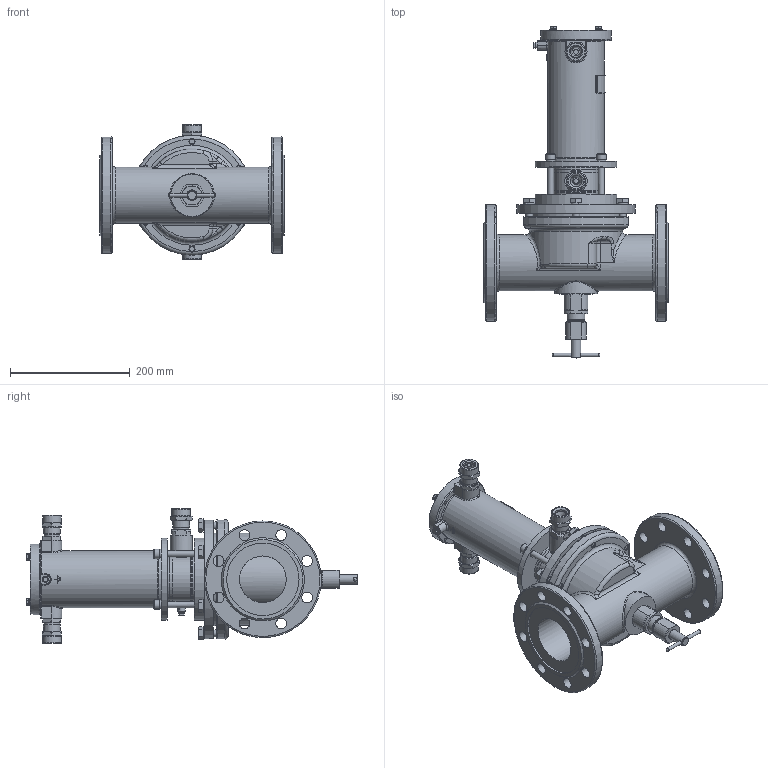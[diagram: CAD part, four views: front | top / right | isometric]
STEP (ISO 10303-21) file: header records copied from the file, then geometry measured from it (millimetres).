
FILE_DESCRIPTION(('STEP AP203'), '1');
FILE_NAME('ÑÅÍÑ-ÏÐ DN80PN25-ÄÏ1.stp', '2018-10-09T08:06:13', ('Îðëîâ Å.Â.'), ('ÎÎÎ ÍÏÏ Ñåíñîð'), 'ASCON STEP Converter 1.3', 'Kompas 3D', '');
FILE_SCHEMA(('CONFIG_CONTROL_DESIGN','SUPPORT_RESOURCE_SCHEMA'));
Length unit declared in the file: millimetre
Products named in the file (1): 48
Bounding box: 308 x 554.86 x 225 mm (x, y, z)
Volume: 3571752 mm3; surface area: 829866 mm2
Topology: 3 solids, 29 shells, 2311 faces, 6022 edges, 3886 vertices
Faces by surface type: cylinder 1111, plane 886, cone 182, bspline 56, torus 52, extrusion 16, sphere 8
Full cylindrical faces by diameter (mm): 2.459 x1, 3.5 x2, 4.134 x6, 4.917 x4, 5 x2, 5.3 x1, 6 x9, 6.5 x4, 8 x10, 8.2 x1, 8.376 x4, 8.5 x1, 10 x6, 10.106 x6, 11 x5, 12 x12, 13 x10, 16 x6, 16.004 x2, 17 x2, 17.5 x1, 18 x17, 18.632 x2, 20 x4, 22 x2, 22.376 x2, 23 x2, 23.5 x3, 24 x3, 24.5 x2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
Entity records: 92249 total; most frequent: CARTESIAN_POINT 34526, DIRECTION 12413, ORIENTED_EDGE 11980, EDGE_CURVE 5990, AXIS2_PLACEMENT_3D 4810, VERTEX_POINT 3886, VECTOR 2793, LINE 2777
